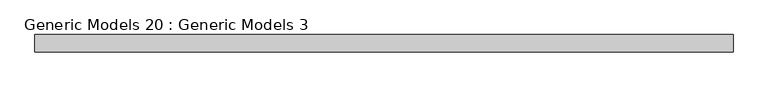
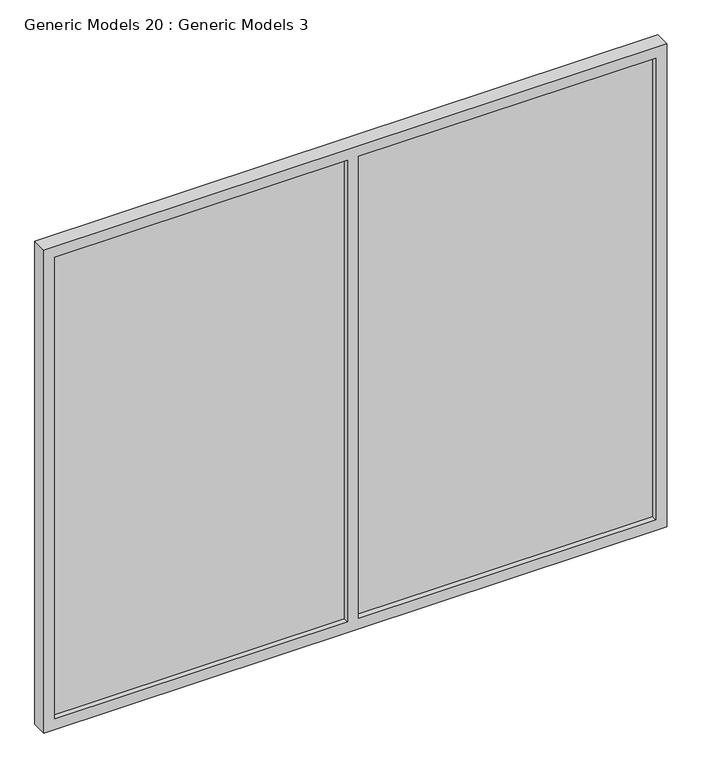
"""IFC4 building model written with IfcOpenShell, lengths in millimetres: proxy geometry, Generic Models 20 : Generic Models 3."""

from ifc_helpers import new_model, si_unit, frame, origin, place, context, project, spatial, polyline, outline, extrude, source, transform, mapped, element, save


def generic_models_20_generic_models_3_f67f5997(model_context):
    return source(origin(), model_context, "Body", "SweptSolid", [
        extrude(outline(polyline([(-7450.8677293, -3952.4385624), (-8768.5171482, -3952.4385624), (-8768.5171482, -3921.6857931), (-7450.8677293, -3921.6857931), (-7450.8677293, -3952.4385624)])), frame((0.0, 0.0, 12453.5380954), z_axis=(0.0, 0.0, 1.0), x_axis=(1.0, 0.0, 0.0)), (0.0, 0.0, 1.0), 2196.4619046),
        extrude(outline(polyline([(-6063.3274035, -3952.4385624), (-7400.8677293, -3952.4385624), (-7400.8677293, -3921.6857931), (-6063.3274035, -3921.6857931), (-6063.3274035, -3952.4385624)])), frame((0.0, 0.0, 12453.5380954), z_axis=(0.0, 0.0, 1.0), x_axis=(1.0, 0.0, 0.0)), (0.0, 0.0, 1.0), 2196.4619046),
        extrude(outline(polyline([(12403.5380954, -6013.3274035), (14700.0, -6013.3274035), (14700.0, -8818.5171482), (12403.5380954, -8818.5171482), (12403.5380954, -6013.3274035)]), holes=[polyline([(12453.5380954, -6063.3274035), (12453.5380954, -7400.8677293), (14650.0, -7400.8677293), (14650.0, -6063.3274035), (12453.5380954, -6063.3274035)]), polyline([(14650.0, -8768.5171482), (14650.0, -7450.8677293), (12453.5380954, -7450.8677293), (12453.5380954, -8768.5171482), (14650.0, -8768.5171482)])]), frame((0.0, -3977.8385624, 0.0), z_axis=(0.0, 1.0, 0.0), x_axis=(0.0, 0.0, 1.0)), (0.0, 0.0, 1.0), 69.85),
    ])


if __name__ == "__main__":
    model = new_model("IFC4")
    model_context = context("Model", 3, world=origin())
    ifc_project = project(units=[si_unit("LENGTHUNIT", "METRE", prefix="MILLI")], contexts=[model_context])
    site = spatial("IfcSite", under=ifc_project)
    building = spatial("IfcBuilding", under=site)
    placement = place(None, origin())
    generic_models_20_generic_models_3_shape = generic_models_20_generic_models_3_f67f5997(model_context)
    element("IfcBuildingElementProxy", 1, Name="Generic Models 20 : Generic Models 3", ObjectType="Generic Models 20 : Generic Models 3", at=placement, inside=building, context=model_context, shape_type="MappedRepresentation", body=[
        mapped(generic_models_20_generic_models_3_shape, transform((0.0, 0.0, 0.0), x_axis=(1.0, 0.0, 0.0), y_axis=(0.0, 1.0, 0.0), z_axis=(0.0, 0.0, 1.0))),
    ])
    save(model, "model.ifc")
